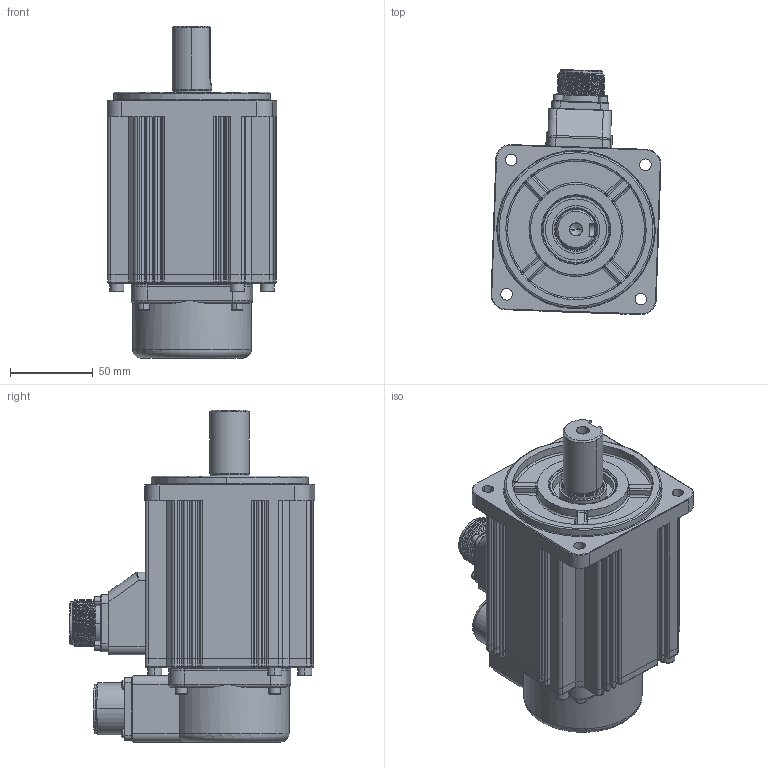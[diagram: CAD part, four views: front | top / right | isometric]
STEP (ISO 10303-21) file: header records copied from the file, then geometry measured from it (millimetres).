
FILE_DESCRIPTION((''),'2;1');
FILE_NAME('IMS20B-10M15C30C-00_ASM','2024-10-24T09:17:38',('0109067'),(''),'CREO PARAMETRIC BY PTC INC, 2019080','CREO PARAMETRIC BY PTC INC, 2019080','');
FILE_SCHEMA(('CONFIG_CONTROL_DESIGN'));
Products named in the file (17): 100_JIKE_15C_L48_2; 50051-00115_1; 18-A6-18FLANGE-CUSTOM-3D_1; ISO4762-M3X30-8_8_1; 100_DZZJ_15C_ASM_2_ASM; 100-15C_ZHOU_L48_1; 100_HDG_1; 100_ZZZJ_15C_ASM_1_ASM; 100_FHZ_1; CMS3102A20-29PE9-A-3D_1; ISO7045-M3X16-4_8_1; ISO4762-M4X16-8_8_1; 100_FHZ_ASM_1_ASM; ISO4762-M5X16-8_8_1; 13000_1; IMS20B-10M15C30C_ASM_2_ASM; IMS20B-10M15C30C-00_ASM
Assembly tree (28 placements, depth 4):
  IMS20B-10M15C30C-00_ASM
    IMS20B-10M15C30C_ASM_2_ASM
      100_DZZJ_15C_ASM_2_ASM
        100_JIKE_15C_L48_2
        50051-00115_1
        18-A6-18FLANGE-CUSTOM-3D_1
        ISO4762-M3X30-8_8_1  x4
      100_ZZZJ_15C_ASM_1_ASM
        100-15C_ZHOU_L48_1
        100_HDG_1
      100_FHZ_ASM_1_ASM
        100_FHZ_1
        CMS3102A20-29PE9-A-3D_1
        ISO7045-M3X16-4_8_1  x4
        ISO4762-M4X16-8_8_1  x4
      ISO4762-M5X16-8_8_1  x4
      13000_1
Bounding box: 102.78 x 148.37 x 201 mm (x, y, z)
Volume: 1313081.7 mm3; surface area: 187329 mm2
Topology: 24 solids, 61 shells, 4197 faces, 11430 edges, 7480 vertices
Faces by surface type: plane 2034, cylinder 898, extrusion 812, torus 205, cone 131, sphere 77, bspline 40
Entity records: 135919 total; most frequent: CARTESIAN_POINT 37537, ORIENTED_EDGE 21370, DIRECTION 18163, EDGE_CURVE 10729, VECTOR 7283, VERTEX_POINT 7090, LINE 6471, AXIS2_PLACEMENT_3D 5440
